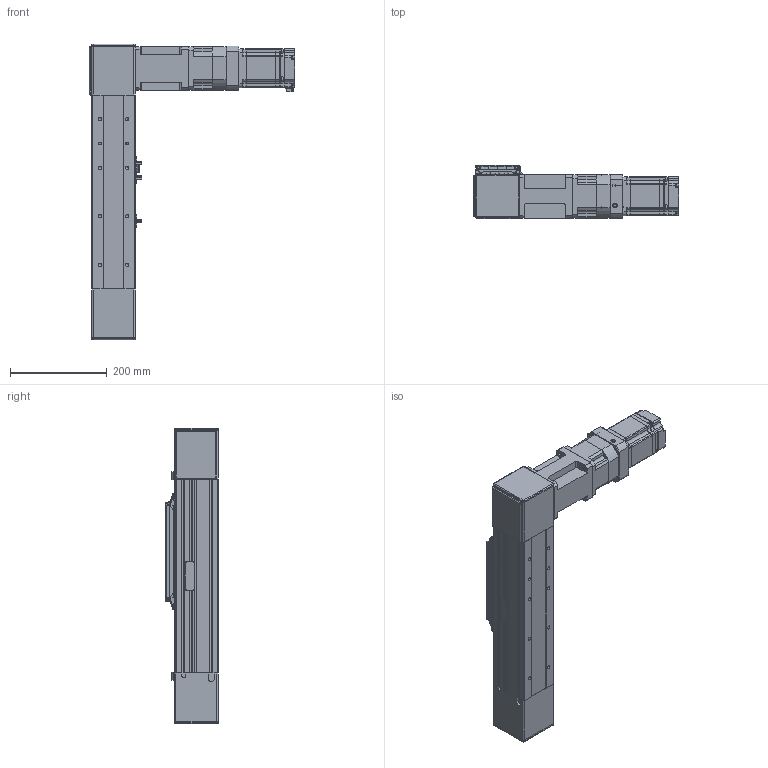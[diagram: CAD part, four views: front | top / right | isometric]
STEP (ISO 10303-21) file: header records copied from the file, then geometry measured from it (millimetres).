
FILE_DESCRIPTION (( 'STEP AP203' ), '1' );
FILE_NAME ('PCB090SRN-0000-ST100-75NR00-N-I3R.STEP', '2015-10-19T00:29:09', ( '' ), ( '' ), 'SwSTEP 2.0', 'SolidWorks 2012', '' );
FILE_SCHEMA (( 'CONFIG_CONTROL_DESIGN' ));
Length unit declared in the file: millimetre
Products named in the file (12): jc48c; PGX90-H-1_3; PCB090SRN-0000-ST100-75NR00-N-I3R; EE_SX672; sgmjv_08a_a21; MOTOR BRACKET 750W; PCS90 SENSOR DOG; PCB090 Carrier; 090_SLIDER_END_COVER_ANY; PCB090 Idler Pulley Block; PCB090 Drive Pulley Block; PCB090 BASE FRAME-100ST
Assembly tree (14 placements, depth 2):
  PCB090SRN-0000-ST100-75NR00-N-I3R
    PCB090 BASE FRAME-100ST
    PCB090 Carrier
    PCB090 Drive Pulley Block
    PCB090 Idler Pulley Block
    090_SLIDER_END_COVER_ANY  x2
    EE_SX672  x3
    PCS90 SENSOR DOG
    MOTOR BRACKET 750W
    sgmjv_08a_a21
    PGX90-H-1_3
    jc48c
Bounding box: 423.6 x 110.5 x 610 mm (x, y, z)
Volume: 5158702.1 mm3; surface area: 936629 mm2
Topology: 38 solids, 38 shells, 2643 faces, 6965 edges, 4463 vertices
Faces by surface type: plane 1382, cylinder 955, cone 175, bspline 107, torus 16, sphere 8
Entity records: 76131 total; most frequent: CARTESIAN_POINT 17896, ORIENTED_EDGE 11906, DIRECTION 11819, EDGE_CURVE 5953, AXIS2_PLACEMENT_3D 4035, VERTEX_POINT 3864, VECTOR 3749, LINE 3749
